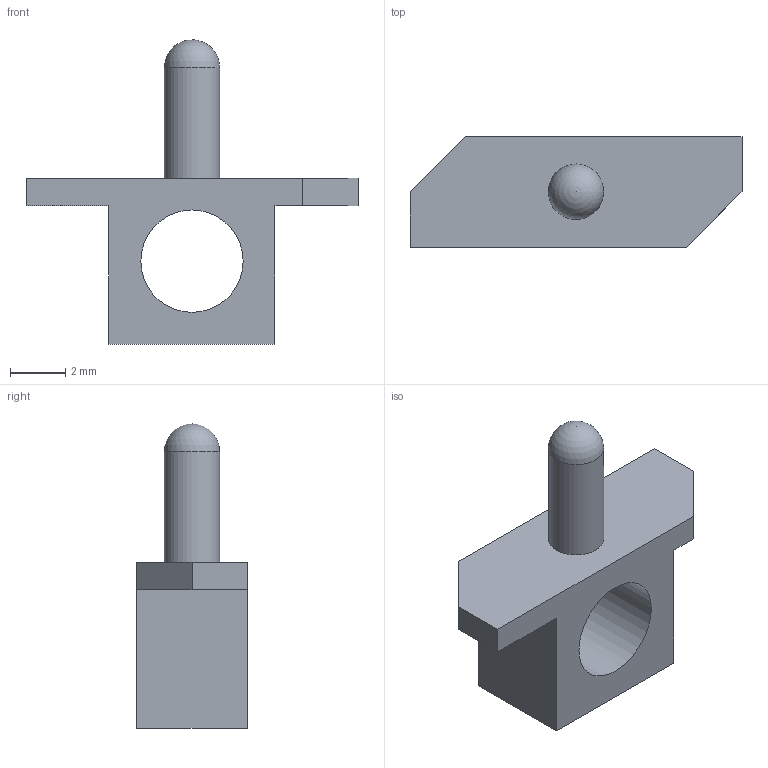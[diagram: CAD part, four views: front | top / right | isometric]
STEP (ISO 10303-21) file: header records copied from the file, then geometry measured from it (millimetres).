
FILE_DESCRIPTION(/* description */ ('STEP AP242','CAx-IF Rec.Pracs.---Representation and Presentation of Product Manufacturing Information (PMI)---4.0---2014-10-13','CAx-IF Rec.Pracs.---3D Tessellated Geometry---0.4---2014-09-14','2;1'),/* implementation_level */ '2;1');
FILE_NAME(/* name */ '6892cff6eb96234880daa9e1',/* time_stamp */ '2025-08-06T03:45:59Z',/* author */ (''),/* organization */ (''),/* preprocessor_version */ 'ST-DEVELOPER v20',/* originating_system */ 'ONSHAPE BY PTC INC, 1.201',/* authorisation */ ' ');
FILE_SCHEMA (('AP242_MANAGED_MODEL_BASED_3D_ENGINEERING_MIM_LF { 1 0 10303 442 1 1 4 }'));
Length unit declared in the file: metre
Products named in the file (1): WTS Tether Guide
Bounding box: 12 x 4 x 11 mm (x, y, z)
Volume: 135.7 mm3; surface area: 270.9 mm2
Topology: 1 solids, 1 shells, 15 faces, 40 edges, 27 vertices
Faces by surface type: plane 12, cylinder 2, sphere 1
Full cylindrical faces by diameter (mm): 2 x1, 3.7 x1
Entity records: 450 total; most frequent: CARTESIAN_POINT 74, DIRECTION 70, ORIENTED_EDGE 68, EDGE_CURVE 34, LINE 30, VECTOR 30, VERTEX_POINT 24, EDGE_LOOP 20
